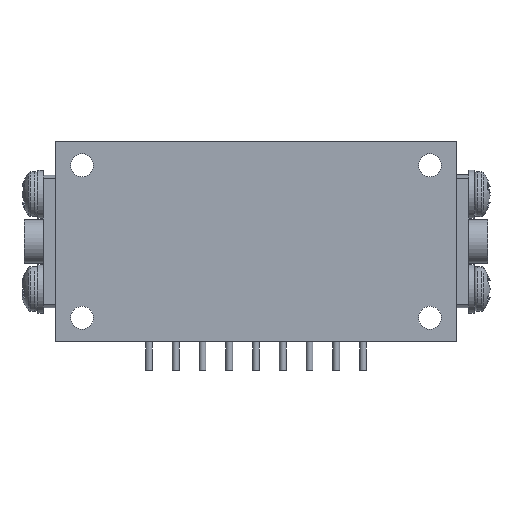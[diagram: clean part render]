
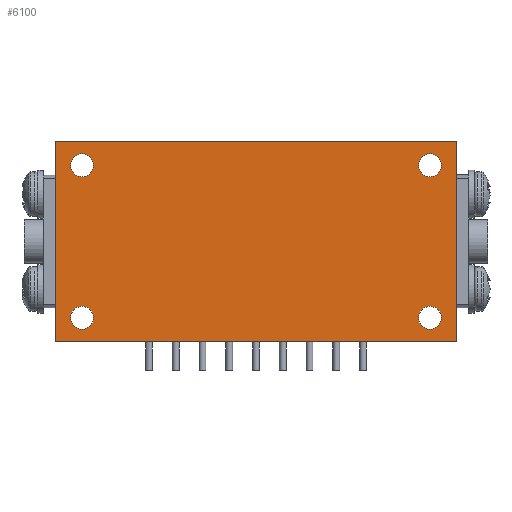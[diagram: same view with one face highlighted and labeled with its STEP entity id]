
A CAD part, front view. The second image highlights one B-rep face of the part: STEP entity #6100.
In plain terms, the highlighted planar face has unit normal (0, -1, 0).
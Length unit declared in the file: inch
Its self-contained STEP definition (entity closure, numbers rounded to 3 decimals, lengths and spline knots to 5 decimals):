
#202 = CARTESIAN_POINT ( 'NONE',  ( 38.81175, 39.05942, 39.66404 ) ) ;
#308 = DIRECTION ( 'NONE',  ( -1., 0., 0. ) ) ;
#421 = VERTEX_POINT ( 'NONE', #11871 ) ;
#459 = VERTEX_POINT ( 'NONE', #10640 ) ;
#473 = LINE ( 'NONE', #35352, #27894 ) ;
#1131 = CIRCLE ( 'NONE', #30028, 0.043 ) ;
#2035 = PLANE ( 'NONE',  #7861 ) ;
#2378 = CARTESIAN_POINT ( 'NONE',  ( 38.81175, 39.05942, 39.66404 ) ) ;
#2567 = DIRECTION ( 'NONE',  ( 0., 1., 0. ) ) ;
#2632 = EDGE_CURVE ( 'NONE', #31466, #31466, #1131, .T. ) ;
#3349 = LINE ( 'NONE', #202, #20199 ) ;
#3582 = VECTOR ( 'NONE', #308, 39.37008 ) ;
#4254 = ORIENTED_EDGE ( 'NONE', *, *, #27957, .T. ) ;
#4572 = ORIENTED_EDGE ( 'NONE', *, *, #9144, .F. ) ;
#4600 = CARTESIAN_POINT ( 'NONE',  ( 38.81175, 39.05942, 38.91404 ) ) ;
#4842 = CARTESIAN_POINT ( 'NONE',  ( 40.21175, 39.05942, 39.57404 ) ) ;
#4904 = CARTESIAN_POINT ( 'NONE',  ( 40.21175, 39.05942, 39.00404 ) ) ;
#5187 = FACE_BOUND ( 'NONE', #31983, .T. ) ;
#6100 = ADVANCED_FACE ( 'NONE', ( #11238, #22402, #16731, #5187, #27842 ), #2035, .F. ) ;
#6257 = CARTESIAN_POINT ( 'NONE',  ( 40.21175, 39.05942, 39.04704 ) ) ;
#6312 = CARTESIAN_POINT ( 'NONE',  ( 40.31175, 39.05942, 38.91404 ) ) ;
#6748 = DIRECTION ( 'NONE',  ( 0., 0., 1. ) ) ;
#6912 = DIRECTION ( 'NONE',  ( 0., 1., 0. ) ) ;
#6915 = CARTESIAN_POINT ( 'NONE',  ( 38.91175, 39.05942, 39.61704 ) ) ;
#7335 = ORIENTED_EDGE ( 'NONE', *, *, #27053, .F. ) ;
#7861 = AXIS2_PLACEMENT_3D ( 'NONE', #23141, #26506, #23497 ) ;
#8234 = VERTEX_POINT ( 'NONE', #36707 ) ;
#8723 = EDGE_LOOP ( 'NONE', ( #15867 ) ) ;
#8833 = CIRCLE ( 'NONE', #29963, 0.043 ) ;
#9144 = EDGE_CURVE ( 'NONE', #8234, #459, #20667, .T. ) ;
#10640 = CARTESIAN_POINT ( 'NONE',  ( 40.31175, 39.05942, 38.91404 ) ) ;
#11238 = FACE_BOUND ( 'NONE', #20431, .T. ) ;
#11321 = ORIENTED_EDGE ( 'NONE', *, *, #35278, .F. ) ;
#11871 = CARTESIAN_POINT ( 'NONE',  ( 40.21175, 39.05942, 39.61704 ) ) ;
#14188 = EDGE_CURVE ( 'NONE', #23430, #23430, #24496, .T. ) ;
#15867 = ORIENTED_EDGE ( 'NONE', *, *, #14188, .T. ) ;
#16448 = DIRECTION ( 'NONE',  ( 0., 0., 1. ) ) ;
#16731 = FACE_BOUND ( 'NONE', #22663, .T. ) ;
#17728 = ORIENTED_EDGE ( 'NONE', *, *, #2632, .T. ) ;
#18142 = ORIENTED_EDGE ( 'NONE', *, *, #29101, .T. ) ;
#18444 = CIRCLE ( 'NONE', #20246, 0.043 ) ;
#18827 = DIRECTION ( 'NONE',  ( 0., 0., 1. ) ) ;
#19655 = ORIENTED_EDGE ( 'NONE', *, *, #31080, .F. ) ;
#20199 = VECTOR ( 'NONE', #34681, 39.37008 ) ;
#20246 = AXIS2_PLACEMENT_3D ( 'NONE', #4842, #27288, #18827 ) ;
#20431 = EDGE_LOOP ( 'NONE', ( #17728 ) ) ;
#20667 = LINE ( 'NONE', #6312, #25786 ) ;
#21482 = VERTEX_POINT ( 'NONE', #6915 ) ;
#22402 = FACE_BOUND ( 'NONE', #8723, .T. ) ;
#22612 = CARTESIAN_POINT ( 'NONE',  ( 38.91175, 39.05942, 39.04704 ) ) ;
#22663 = EDGE_LOOP ( 'NONE', ( #4254 ) ) ;
#22731 = DIRECTION ( 'NONE',  ( 0., 0., 1. ) ) ;
#22742 = AXIS2_PLACEMENT_3D ( 'NONE', #4904, #30959, #16448 ) ;
#23141 = CARTESIAN_POINT ( 'NONE',  ( 39.56175, 39.05942, 39.28904 ) ) ;
#23430 = VERTEX_POINT ( 'NONE', #6257 ) ;
#23497 = DIRECTION ( 'NONE',  ( 0., 0., 1. ) ) ;
#24496 = CIRCLE ( 'NONE', #22742, 0.043 ) ;
#25416 = VERTEX_POINT ( 'NONE', #2378 ) ;
#25786 = VECTOR ( 'NONE', #32350, 39.37008 ) ;
#26506 = DIRECTION ( 'NONE',  ( 0., 1., 0. ) ) ;
#26582 = EDGE_LOOP ( 'NONE', ( #11321, #19655, #4572, #7335 ) ) ;
#26813 = DIRECTION ( 'NONE',  ( 0., 0., 1. ) ) ;
#27053 = EDGE_CURVE ( 'NONE', #25416, #8234, #3349, .T. ) ;
#27288 = DIRECTION ( 'NONE',  ( 0., 1., 0. ) ) ;
#27842 = FACE_OUTER_BOUND ( 'NONE', #26582, .T. ) ;
#27894 = VECTOR ( 'NONE', #26813, 39.37008 ) ;
#27957 = EDGE_CURVE ( 'NONE', #421, #421, #18444, .T. ) ;
#29101 = EDGE_CURVE ( 'NONE', #21482, #21482, #8833, .T. ) ;
#29875 = VERTEX_POINT ( 'NONE', #4600 ) ;
#29963 = AXIS2_PLACEMENT_3D ( 'NONE', #29966, #6912, #6748 ) ;
#29966 = CARTESIAN_POINT ( 'NONE',  ( 38.91175, 39.05942, 39.57404 ) ) ;
#30028 = AXIS2_PLACEMENT_3D ( 'NONE', #37281, #2567, #22731 ) ;
#30959 = DIRECTION ( 'NONE',  ( 0., 1., 0. ) ) ;
#31080 = EDGE_CURVE ( 'NONE', #459, #29875, #35181, .T. ) ;
#31466 = VERTEX_POINT ( 'NONE', #22612 ) ;
#31964 = CARTESIAN_POINT ( 'NONE',  ( 38.81175, 39.05942, 38.91404 ) ) ;
#31983 = EDGE_LOOP ( 'NONE', ( #18142 ) ) ;
#32350 = DIRECTION ( 'NONE',  ( 0., 0., -1. ) ) ;
#34681 = DIRECTION ( 'NONE',  ( 1., 0., 0. ) ) ;
#35181 = LINE ( 'NONE', #31964, #3582 ) ;
#35278 = EDGE_CURVE ( 'NONE', #29875, #25416, #473, .T. ) ;
#35352 = CARTESIAN_POINT ( 'NONE',  ( 38.81175, 39.05942, 38.91404 ) ) ;
#36707 = CARTESIAN_POINT ( 'NONE',  ( 40.31175, 39.05942, 39.66404 ) ) ;
#37281 = CARTESIAN_POINT ( 'NONE',  ( 38.91175, 39.05942, 39.00404 ) ) ;
